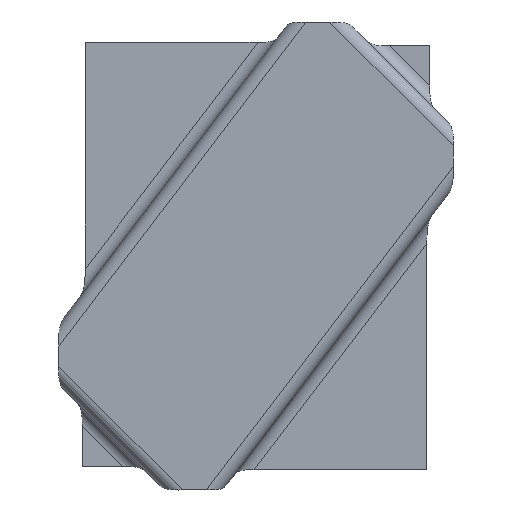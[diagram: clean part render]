
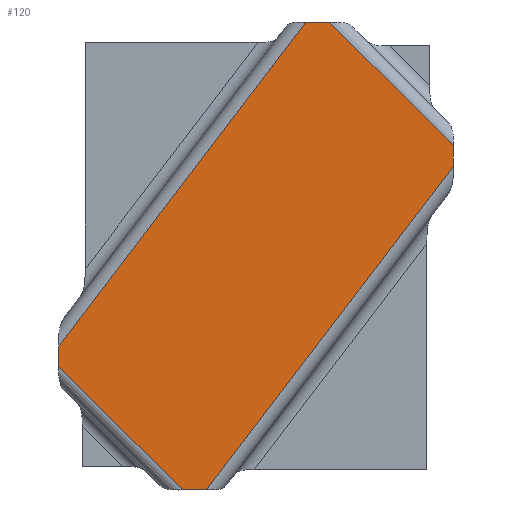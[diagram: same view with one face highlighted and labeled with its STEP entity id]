
A CAD part, top view. The second image highlights one B-rep face of the part: STEP entity #120.
In plain terms, the highlighted planar face has unit normal (0, 0, -1).
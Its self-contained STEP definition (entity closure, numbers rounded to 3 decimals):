
#53=CARTESIAN_POINT('Axis2P3D Location',(-51.412,39.197,65.15)) ;
#59=CARTESIAN_POINT('Control Point',(-51.412,78.56,65.15)) ;
#60=CARTESIAN_POINT('Control Point',(16.164,167.197,65.15)) ;
#61=CARTESIAN_POINT('Vertex',(-51.412,78.56,65.15)) ;
#63=CARTESIAN_POINT('Vertex',(16.164,167.197,65.15)) ;
#66=CARTESIAN_POINT('Line Origine',(2.588,167.197,65.15)) ;
#70=CARTESIAN_POINT('Vertex',(22.762,167.197,65.15)) ;
#74=CARTESIAN_POINT('Control Point',(22.762,167.197,65.15)) ;
#75=CARTESIAN_POINT('Control Point',(56.588,133.371,65.15)) ;
#76=CARTESIAN_POINT('Vertex',(56.588,133.371,65.15)) ;
#79=CARTESIAN_POINT('Line Origine',(56.588,103.197,65.15)) ;
#83=CARTESIAN_POINT('Vertex',(56.588,127.754,65.15)) ;
#87=CARTESIAN_POINT('Control Point',(56.588,127.754,65.15)) ;
#88=CARTESIAN_POINT('Control Point',(-10.928,39.197,65.15)) ;
#89=CARTESIAN_POINT('Vertex',(-10.928,39.197,65.15)) ;
#92=CARTESIAN_POINT('Line Origine',(2.588,39.197,65.15)) ;
#96=CARTESIAN_POINT('Vertex',(-17.586,39.197,65.15)) ;
#100=CARTESIAN_POINT('Control Point',(-51.412,73.022,65.15)) ;
#101=CARTESIAN_POINT('Control Point',(-17.586,39.197,65.15)) ;
#102=CARTESIAN_POINT('Vertex',(-51.412,73.022,65.15)) ;
#105=CARTESIAN_POINT('Line Origine',(-51.412,103.197,65.15)) ;
#54=DIRECTION('Axis2P3D Direction',(0.,0.,1.)) ;
#55=DIRECTION('Axis2P3D XDirection',(1.,0.,0.)) ;
#67=DIRECTION('Vector Direction',(1.,0.,0.)) ;
#80=DIRECTION('Vector Direction',(0.,1.,0.)) ;
#93=DIRECTION('Vector Direction',(1.,0.,0.)) ;
#106=DIRECTION('Vector Direction',(0.,1.,0.)) ;
#56=AXIS2_PLACEMENT_3D('Plane Axis2P3D',#53,#54,#55) ;
#111=ORIENTED_EDGE('',*,*,#65,.T.) ;
#112=ORIENTED_EDGE('',*,*,#72,.T.) ;
#113=ORIENTED_EDGE('',*,*,#78,.T.) ;
#114=ORIENTED_EDGE('',*,*,#85,.T.) ;
#115=ORIENTED_EDGE('',*,*,#91,.T.) ;
#116=ORIENTED_EDGE('',*,*,#98,.T.) ;
#117=ORIENTED_EDGE('',*,*,#104,.F.) ;
#118=ORIENTED_EDGE('',*,*,#109,.T.) ;
#68=VECTOR('Line Direction',#67,1.) ;
#81=VECTOR('Line Direction',#80,1.) ;
#94=VECTOR('Line Direction',#93,1.) ;
#107=VECTOR('Line Direction',#106,1.) ;
#120=ADVANCED_FACE('Offset.1',(#119),#57,.F.) ;
#58=B_SPLINE_CURVE_WITH_KNOTS('',1,(#59,#60),.UNSPECIFIED.,.F.,.U.,(2,2),(-55.729,55.729),.UNSPECIFIED.) ;
#73=B_SPLINE_CURVE_WITH_KNOTS('',1,(#74,#75),.UNSPECIFIED.,.F.,.U.,(2,2),(-23.919,23.919),.UNSPECIFIED.) ;
#86=B_SPLINE_CURVE_WITH_KNOTS('',1,(#87,#88),.UNSPECIFIED.,.F.,.U.,(2,2),(-55.68,55.68),.UNSPECIFIED.) ;
#99=B_SPLINE_CURVE_WITH_KNOTS('',1,(#100,#101),.UNSPECIFIED.,.F.,.U.,(2,2),(-23.919,23.919),.UNSPECIFIED.) ;
#65=EDGE_CURVE('',#62,#64,#58,.T.) ;
#72=EDGE_CURVE('',#64,#71,#69,.T.) ;
#78=EDGE_CURVE('',#71,#77,#73,.T.) ;
#85=EDGE_CURVE('',#77,#84,#82,.F.) ;
#91=EDGE_CURVE('',#84,#90,#86,.T.) ;
#98=EDGE_CURVE('',#90,#97,#95,.F.) ;
#104=EDGE_CURVE('',#103,#97,#99,.T.) ;
#109=EDGE_CURVE('',#103,#62,#108,.T.) ;
#110=EDGE_LOOP('',(#111,#112,#113,#114,#115,#116,#117,#118)) ;
#119=FACE_OUTER_BOUND('',#110,.T.) ;
#69=LINE('Line',#66,#68) ;
#82=LINE('Line',#79,#81) ;
#95=LINE('Line',#92,#94) ;
#108=LINE('Line',#105,#107) ;
#57=PLANE('',#56) ;
#62=VERTEX_POINT('',#61) ;
#64=VERTEX_POINT('',#63) ;
#71=VERTEX_POINT('',#70) ;
#77=VERTEX_POINT('',#76) ;
#84=VERTEX_POINT('',#83) ;
#90=VERTEX_POINT('',#89) ;
#97=VERTEX_POINT('',#96) ;
#103=VERTEX_POINT('',#102) ;
